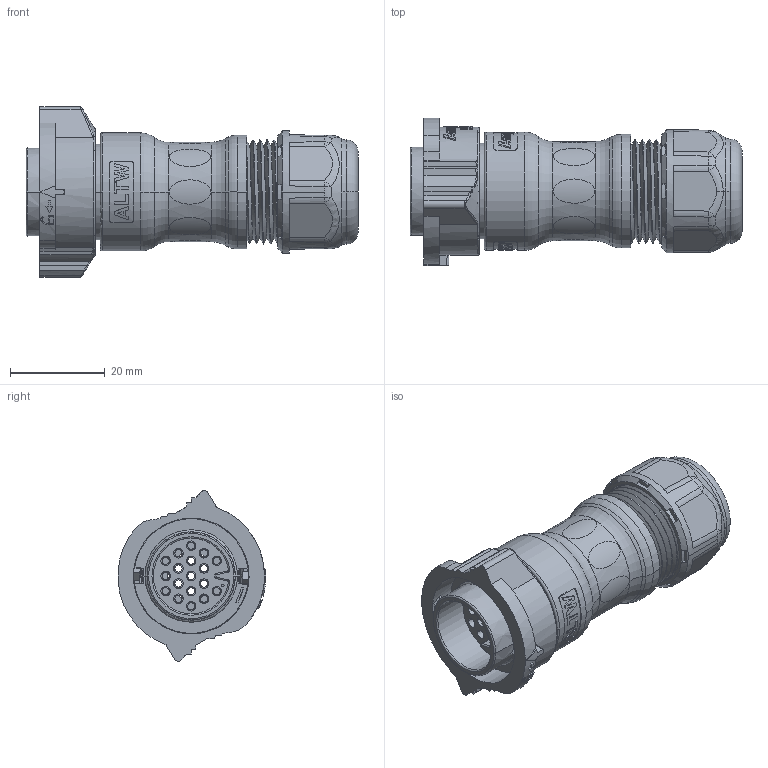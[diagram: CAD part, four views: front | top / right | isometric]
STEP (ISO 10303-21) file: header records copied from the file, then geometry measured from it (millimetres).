
FILE_DESCRIPTION((''),'2;1');
FILE_NAME('DD-XXBFMA-QL8XN0_SW0001','2019-12-20T',('L100003'),(''),'PRO/ENGINEER BY PARAMETRIC TECHNOLOGY CORPORATION, 2017170','PRO/ENGINEER BY PARAMETRIC TECHNOLOGY CORPORATION, 2017170','');
FILE_SCHEMA(('CONFIG_CONTROL_DESIGN'));
Length unit declared in the file: millimetre
Products named in the file (1): DD-XXBFMA-QL8XN0_SW0001
Bounding box: 70.15 x 31.26 x 36 mm (x, y, z)
Volume: 18411.6 mm3; surface area: 19627.5 mm2
Topology: 2 solids, 2 shells, 1521 faces, 4064 edges, 2623 vertices
Faces by surface type: plane 400, bspline 294, cylinder 294, extrusion 252, cone 196, torus 70, sphere 15
Entity records: 74766 total; most frequent: CARTESIAN_POINT 39859, ORIENTED_EDGE 8124, DIRECTION 5731, EDGE_CURVE 4062, VERTEX_POINT 2623, AXIS2_PLACEMENT_3D 2042, B_SPLINE_CURVE_WITH_KNOTS 1852, EDGE_LOOP 1649
